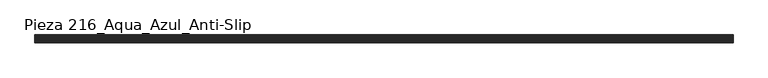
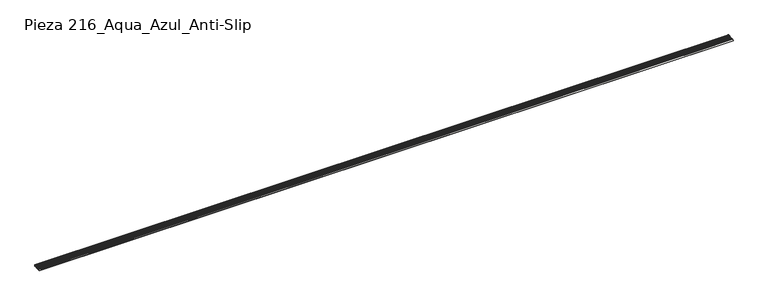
"""IFC4 building model written with IfcOpenShell, lengths in millimetres: slab geometry, ROSA GRES_216 (profundidad) : Pieza 216_Aqua_Azul_Anti-Slip."""

from ifc_helpers import new_model, si_unit, point, frame, frame_2d, origin, place, context, project, spatial, polyline, circle_curve, trimmed, segment, composite_curve, outline, extrude, source, transform, mapped, element, save


def pieza_216_aqua_azul_anti_slip_9a172c5e(model_context):
    return source(origin(), model_context, "Body", "SweptSolid", [
        extrude(outline(composite_curve([segment(polyline([(131.5147991, 190.298667), (130.9555618, 192.6836396)]), True, "CONTINUOUS"), segment(trimmed(circle_curve(frame_2d((125.6336801, 191.4357448)), 5.4662296), [point((130.9555618, 192.6836396))], [point((129.2498705, 195.5348707))], True, "CARTESIAN"), True, "CONTINUOUS"), segment(trimmed(circle_curve(frame_2d((112.2317578, 176.2440208)), 25.7245612), [point((129.2498705, 195.5348707))], [point((96.2307788, 196.386556))], True, "CARTESIAN"), True, "CONTINUOUS"), segment(trimmed(circle_curve(frame_2d((99.6308378, 192.1064549)), 5.4662296), [point((96.2307788, 196.386556))], [point((94.4638044, 193.8901119))], True, "CARTESIAN"), True, "CONTINUOUS"), segment(polyline([(94.4638044, 193.8901119), (93.2293566, 190.3140695), (50.2802779, 190.3140695), (47.02226, 214.2649666), (51.3482048, 207.3914339)]), True, "CONTINUOUS"), segment(trimmed(circle_curve(frame_2d((63.7751184, 214.6556047)), 14.394317), [point((51.3482048, 207.3914339))], [point((57.0972438, 201.904042))], True, "CARTESIAN"), True, "CONTINUOUS"), segment(trimmed(circle_curve(frame_2d((59.2105081, 205.9393712)), 4.5551913), [point((57.0972438, 201.904042))], [point((59.5105698, 201.3940735))], True, "CARTESIAN"), True, "CONTINUOUS"), segment(polyline([(59.5105698, 201.3940735), (75.0526722, 202.4200987)]), True, "CONTINUOUS"), segment(trimmed(circle_curve(frame_2d((74.7526105, 206.9653964)), 4.5551913), [point((75.0526722, 202.4200987))], [point((76.5779698, 202.7919289))], True, "CARTESIAN"), True, "CONTINUOUS"), segment(trimmed(circle_curve(frame_2d((70.8098694, 215.980006)), 14.394317), [point((76.5779698, 202.7919289))], [point((84.083877, 210.4125036))], True, "CARTESIAN"), True, "CONTINUOUS"), segment(polyline([(84.083877, 210.4125036), (86.7854822, 216.8536554), (97.5473566, 217.5715259)]), True, "CONTINUOUS"), segment(trimmed(circle_curve(frame_2d((100.4299632, 220.5397878)), 4.1376321), [point((97.5473566, 217.5715259))], [point((102.9301588, 217.2429679))], True, "CARTESIAN"), True, "CONTINUOUS"), segment(trimmed(circle_curve(frame_2d((105.4303545, 213.9461481)), 4.1376321), [point((102.9301588, 217.2429679))], [point((107.4754565, 217.5430296))], False, "CARTESIAN"), True, "CONTINUOUS"), segment(trimmed(circle_curve(frame_2d((109.5205585, 221.1399112)), 4.1376321), [point((107.4754565, 217.5430296))], [point((112.0207542, 217.8430914))], True, "CARTESIAN"), True, "CONTINUOUS"), segment(trimmed(circle_curve(frame_2d((114.5209498, 214.5462715)), 4.1376321), [point((112.0207542, 217.8430914))], [point((116.5660518, 218.1431531))], False, "CARTESIAN"), True, "CONTINUOUS"), segment(trimmed(circle_curve(frame_2d((118.6111539, 221.7400347)), 4.1376321), [point((116.5660518, 218.1431531))], [point((121.1113495, 218.4432148))], True, "CARTESIAN"), True, "CONTINUOUS"), segment(trimmed(circle_curve(frame_2d((123.6115451, 215.1463949)), 4.1376321), [point((121.1113495, 218.4432148))], [point((125.6566472, 218.7432765))], False, "CARTESIAN"), True, "CONTINUOUS"), segment(trimmed(circle_curve(frame_2d((127.7017492, 222.3401581)), 4.1376321), [point((125.6566472, 218.7432765))], [point((130.2019448, 219.0433382))], True, "CARTESIAN"), True, "CONTINUOUS"), segment(trimmed(circle_curve(frame_2d((132.7021405, 215.7465184)), 4.1376321), [point((130.2019448, 219.0433382))], [point((134.7472425, 219.3433999))], False, "CARTESIAN"), True, "CONTINUOUS"), segment(trimmed(circle_curve(frame_2d((136.7923445, 222.9402815)), 4.1376321), [point((134.7472425, 219.3433999))], [point((138.1, 219.0147196))], True, "CARTESIAN"), True, "CONTINUOUS"), segment(polyline([(138.1, 219.0147196), (138.1, 190.2960177), (131.5147991, 190.298667)]), True, "CONTINUOUS")], self_intersect=False)), frame((0.0, 0.0, 0.0), z_axis=(1.0, 0.0, 0.0), x_axis=(0.0, 1.0, 0.0)), (0.0, 0.0, 1.0), 12219.9734114),
        extrude(outline(composite_curve([segment(polyline([(50.2779274, 190.3313491), (42.6585641, 190.3344144)]), True, "CONTINUOUS"), segment(trimmed(circle_curve(frame_2d((28.4466156, 179.1524611)), 18.0835716), [point((42.6585641, 190.3344144))], [point((14.2436688, 190.3458459))], True, "CARTESIAN"), True, "CONTINUOUS"), segment(polyline([(14.2436688, 190.3458459), (5.4229579, 190.3493946), (5.1617818, 192.8343188), (0.2589396, 192.8448483), (0.270618, 198.2826277)]), True, "CONTINUOUS"), segment(trimmed(circle_curve(frame_2d((13.9356113, 198.4086002)), 13.6655739), [point((0.270618, 198.2826277))], [point((12.4148911, 211.9892969))], False, "CARTESIAN"), True, "CONTINUOUS"), segment(polyline([(12.4148911, 211.9892969), (20.9679225, 212.5430894)]), True, "CONTINUOUS"), segment(trimmed(circle_curve(frame_2d((23.8495454, 215.5123064)), 4.1376321), [point((20.9679225, 212.5430894))], [point((26.349741, 212.2154865))], True, "CARTESIAN"), True, "CONTINUOUS"), segment(trimmed(circle_curve(frame_2d((28.8499366, 208.9186667)), 4.1376321), [point((26.349741, 212.2154865))], [point((30.8950387, 212.5155483))], False, "CARTESIAN"), True, "CONTINUOUS"), segment(trimmed(circle_curve(frame_2d((32.9401407, 216.1124298)), 4.1376321), [point((30.8950387, 212.5155483))], [point((36.1886491, 213.5497765))], True, "CARTESIAN"), True, "CONTINUOUS"), segment(polyline([(36.1886491, 213.5497765), (47.02226, 214.2649666), (50.2779274, 190.3313491)]), True, "CONTINUOUS")], self_intersect=False)), frame((0.0, 0.0, 0.0), z_axis=(1.0, 0.0, 0.0), x_axis=(0.0, 1.0, 0.0)), (0.0, 0.0, 1.0), 12219.9734114),
    ])


if __name__ == "__main__":
    model = new_model("IFC4")
    model_context = context("Model", 3, world=origin())
    ifc_project = project(units=[si_unit("LENGTHUNIT", "METRE", prefix="MILLI")], contexts=[model_context])
    site = spatial("IfcSite", under=ifc_project)
    building = spatial("IfcBuilding", under=site)
    placement = place(None, origin())
    pieza_216_aqua_azul_anti_slip_shape = pieza_216_aqua_azul_anti_slip_9a172c5e(model_context)
    element("IfcSlab", 1, ObjectType="ROSA GRES_216 (profundidad) : Pieza 216_Aqua_Azul_Anti-Slip", at=placement, inside=building, context=model_context, shape_type="MappedRepresentation", body=[
        mapped(pieza_216_aqua_azul_anti_slip_shape, transform((0.0, 0.0, 0.0), x_axis=(1.0, 0.0, 0.0), y_axis=(0.0, 1.0, 0.0), z_axis=(0.0, 0.0, 1.0))),
    ])
    save(model, "model.ifc")
